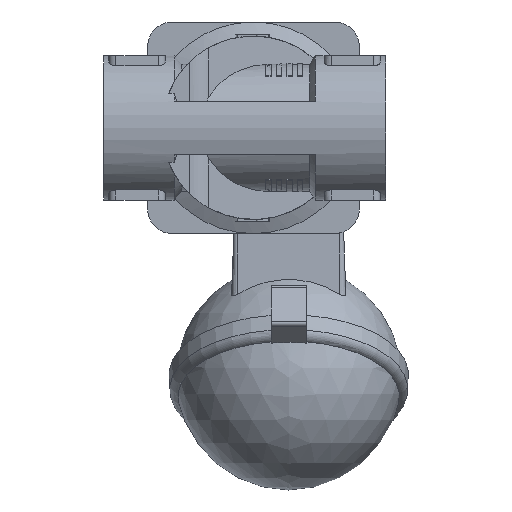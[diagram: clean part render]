
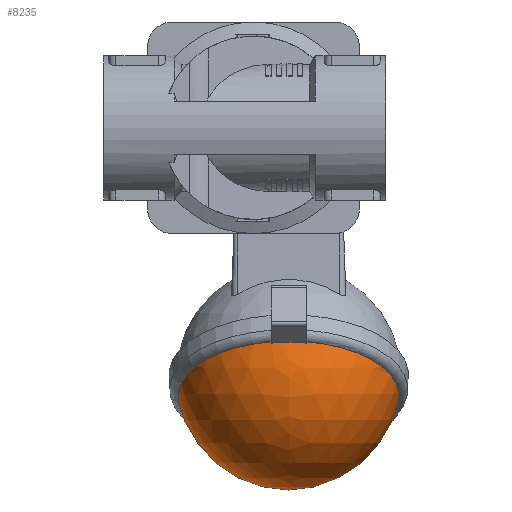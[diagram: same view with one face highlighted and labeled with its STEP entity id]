
A CAD part, front view. The second image highlights one B-rep face of the part: STEP entity #8235.
In plain terms, the highlighted spherical face has radius 32 mm.
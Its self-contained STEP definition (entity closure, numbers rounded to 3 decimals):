
#20=SPHERICAL_SURFACE('',#8886,32.);
#2686=ORIENTED_EDGE('',*,*,#4010,.F.);
#2687=ORIENTED_EDGE('',*,*,#4011,.T.);
#2688=ORIENTED_EDGE('',*,*,#4012,.T.);
#2689=ORIENTED_EDGE('',*,*,#4013,.F.);
#2690=ORIENTED_EDGE('',*,*,#4014,.F.);
#2691=ORIENTED_EDGE('',*,*,#4015,.F.);
#2692=ORIENTED_EDGE('',*,*,#4016,.T.);
#2693=ORIENTED_EDGE('',*,*,#4017,.T.);
#4010=EDGE_CURVE('',#4771,#4772,#5161,.F.);
#4011=EDGE_CURVE('',#4771,#4773,#5162,.F.);
#4012=EDGE_CURVE('',#4773,#4774,#5163,.F.);
#4013=EDGE_CURVE('',#4775,#4774,#5164,.F.);
#4014=EDGE_CURVE('',#4776,#4775,#5165,.F.);
#4015=EDGE_CURVE('',#4777,#4776,#5166,.F.);
#4016=EDGE_CURVE('',#4777,#4778,#5167,.F.);
#4017=EDGE_CURVE('',#4778,#4772,#5168,.F.);
#4771=VERTEX_POINT('',#12868);
#4772=VERTEX_POINT('',#12869);
#4773=VERTEX_POINT('',#12871);
#4774=VERTEX_POINT('',#12873);
#4775=VERTEX_POINT('',#12875);
#4776=VERTEX_POINT('',#12877);
#4777=VERTEX_POINT('',#12879);
#4778=VERTEX_POINT('',#12881);
#5161=CIRCLE('',#8887,31.368);
#5162=CIRCLE('',#8888,31.607);
#5163=CIRCLE('',#8889,31.291);
#5164=CIRCLE('',#8890,31.607);
#5165=CIRCLE('',#8891,31.368);
#5166=CIRCLE('',#8892,30.708);
#5167=CIRCLE('',#8893,30.984);
#5168=CIRCLE('',#8894,30.708);
#5566=EDGE_LOOP('',(#2686,#2687,#2688,#2689,#2690,#2691,#2692,#2693));
#6022=FACE_BOUND('',#5566,.T.);
#8235=ADVANCED_FACE('',(#6022),#20,.T.);
#8886=AXIS2_PLACEMENT_3D('',#12866,#10495,#10496);
#8887=AXIS2_PLACEMENT_3D('',#12867,#10497,#10498);
#8888=AXIS2_PLACEMENT_3D('',#12870,#10499,#10500);
#8889=AXIS2_PLACEMENT_3D('',#12872,#10501,#10502);
#8890=AXIS2_PLACEMENT_3D('',#12874,#10503,#10504);
#8891=AXIS2_PLACEMENT_3D('',#12876,#10505,#10506);
#8892=AXIS2_PLACEMENT_3D('',#12878,#10507,#10508);
#8893=AXIS2_PLACEMENT_3D('',#12880,#10509,#10510);
#8894=AXIS2_PLACEMENT_3D('',#12882,#10511,#10512);
#10495=DIRECTION('',(1.,0.,0.));
#10496=DIRECTION('',(0.,-1.,0.));
#10497=DIRECTION('',(-0.866,-0.5,0.));
#10498=DIRECTION('',(0.5,-0.866,0.));
#10499=DIRECTION('',(0.,0.,1.));
#10500=DIRECTION('',(1.,0.,0.));
#10501=DIRECTION('',(0.866,0.5,0.));
#10502=DIRECTION('',(-0.5,0.866,0.));
#10503=DIRECTION('',(0.,0.,1.));
#10504=DIRECTION('',(1.,0.,0.));
#10505=DIRECTION('',(-0.866,-0.5,0.));
#10506=DIRECTION('',(0.5,-0.866,0.));
#10507=DIRECTION('',(0.,0.,1.));
#10508=DIRECTION('',(1.,0.,0.));
#10509=DIRECTION('',(0.866,0.5,0.));
#10510=DIRECTION('',(-0.5,0.866,0.));
#10511=DIRECTION('',(0.,0.,1.));
#10512=DIRECTION('',(1.,0.,0.));
#12866=CARTESIAN_POINT('',(-70.7,0.,0.));
#12867=CARTESIAN_POINT('',(-76.183,-3.165,0.));
#12868=CARTESIAN_POINT('',(-60.699,-29.983,-5.));
#12869=CARTESIAN_POINT('',(-91.207,22.858,-9.));
#12870=CARTESIAN_POINT('',(-70.7,0.,-5.));
#12871=CARTESIAN_POINT('',(-61.058,-30.1,-5.));
#12872=CARTESIAN_POINT('',(-76.502,-3.35,0.));
#12873=CARTESIAN_POINT('',(-61.058,-30.1,5.));
#12874=CARTESIAN_POINT('',(-70.7,0.,5.));
#12875=CARTESIAN_POINT('',(-60.699,-29.983,5.));
#12876=CARTESIAN_POINT('',(-76.183,-3.165,0.));
#12877=CARTESIAN_POINT('',(-91.207,22.858,9.));
#12878=CARTESIAN_POINT('',(-70.7,0.,9.));
#12879=CARTESIAN_POINT('',(-92.452,21.676,9.));
#12880=CARTESIAN_POINT('',(-77.628,-4.,0.));
#12881=CARTESIAN_POINT('',(-92.452,21.676,-9.));
#12882=CARTESIAN_POINT('',(-70.7,0.,-9.));
